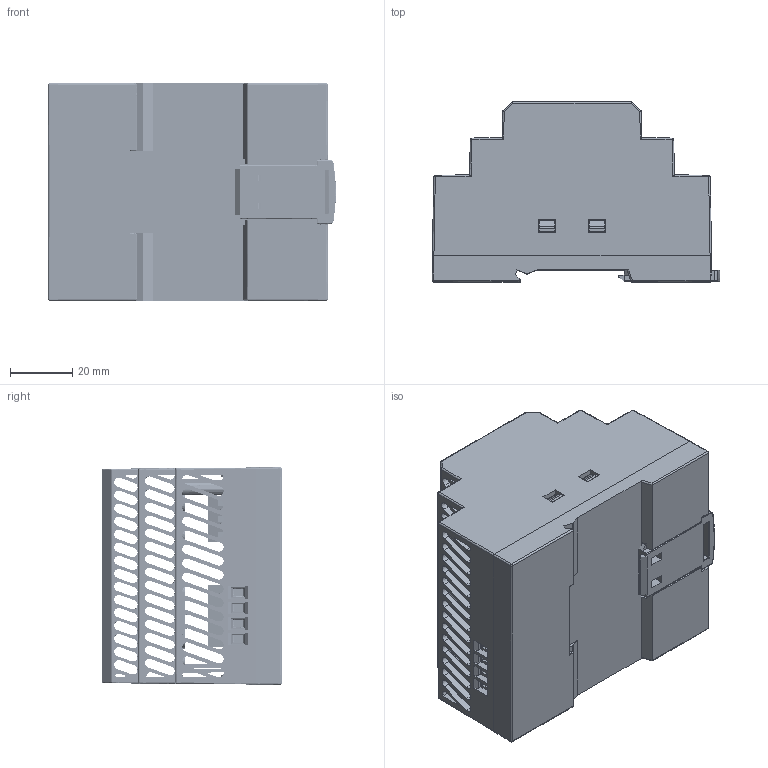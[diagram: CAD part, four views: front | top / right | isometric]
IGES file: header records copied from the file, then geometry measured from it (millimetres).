
Start section: SolidWorks IGES file using analytic representation for surfaces
Global section: file name: C:\Users\ksmith\OneDrive - XP Power\Desktop\DRC100\DRC100.IGS; native system: SolidWorks 2020; preprocessor: SolidWorks 2020; author: ksmith; date: 210222.153643; units: inch
Bounding box: 92.73 x 58 x 70.14 mm (x, y, z)
Surface area: 76728 mm2 (no closed solid volume)
Topology: 0 solids, 0 shells, 1822 faces, 23460 edges, 23337 vertices
Faces by surface type: bspline 1810, revolution 12
